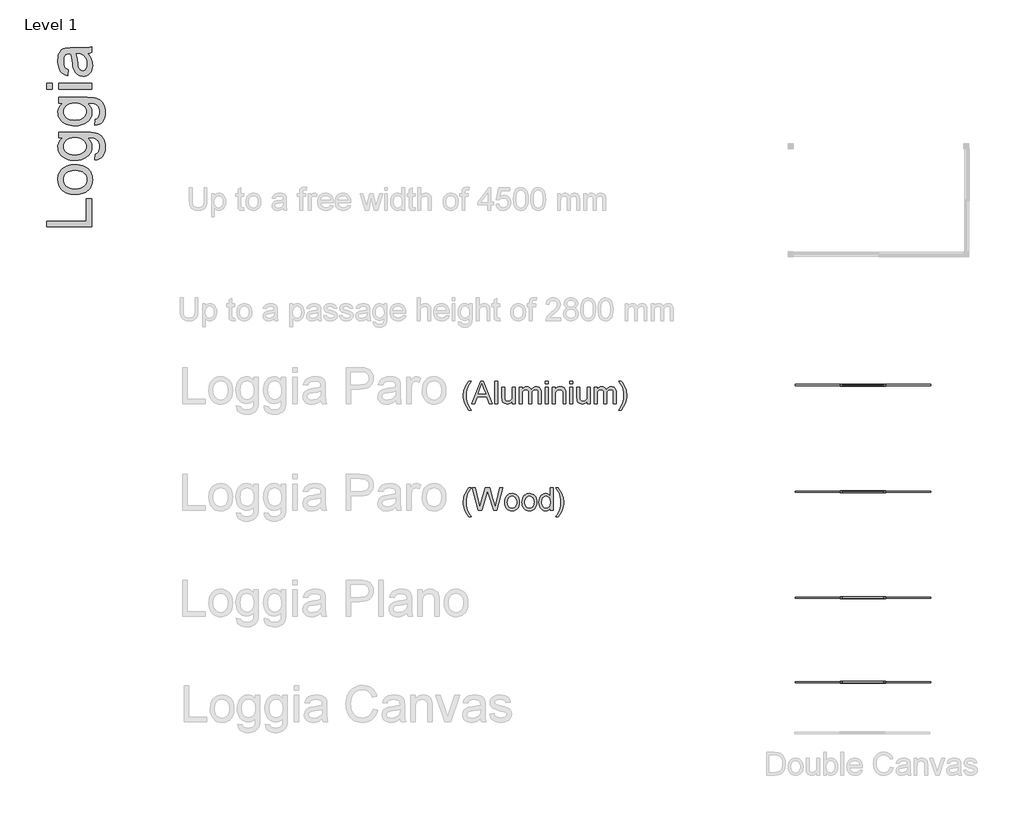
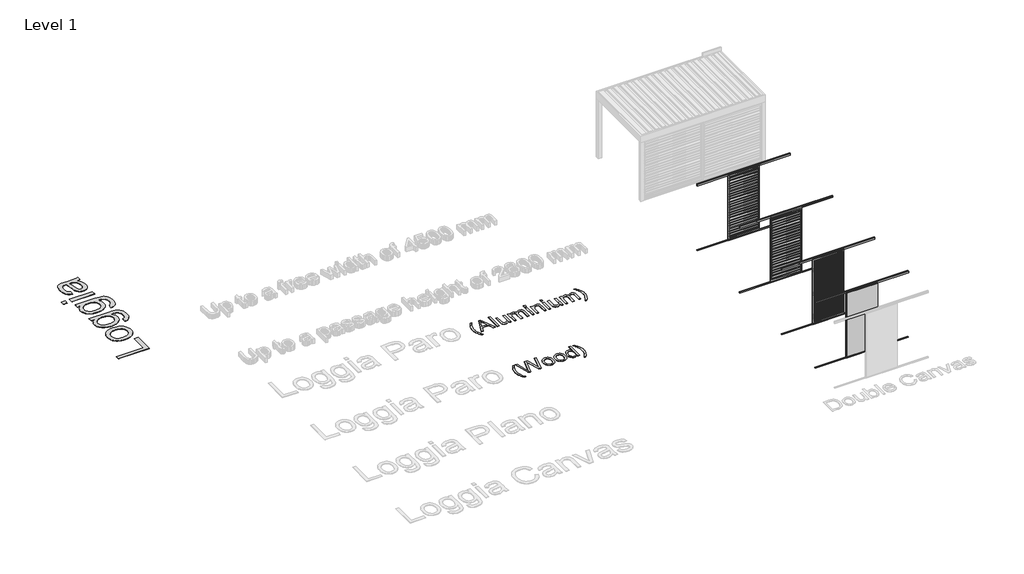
# One storey, part 15 of 47: 7 proxies.
"""IFC4 building model written with IfcOpenShell, lengths in millimetres."""

from ifc_helpers import new_model, si_unit, origin, origin_with_axes, place, context, project, spatial, polyline, outline, extrude, transform, mapped, element, save
from components import generic_models_8ee95c79, generic_models_744005c1, generic_models_683ab45b

model = new_model("IFC4")

# Units and contexts
model_context = context("Model", 3, world=origin())
ifc_project = project(units=[si_unit("LENGTHUNIT", "METRE", prefix="MILLI")], contexts=[model_context])

# Site, building, storey
site = spatial("IfcSite", under=ifc_project)
building = spatial("IfcBuilding", under=site)
storey = spatial("IfcBuildingStorey", under=building, Name="Level 1", Elevation=0.0)

# Proxies
placement = place(None, origin())
generic_models_shape = generic_models_8ee95c79(model_context)
element("IfcBuildingElementProxy", 1, Name="Renson_Algarve_Loggia_Paro_Aluminium : Renson_Algarve_Loggia_Paro_Aluminium", ObjectType="Renson_Algarve_Loggia_Paro_Aluminium : Renson_Algarve_Loggia_Paro_Aluminium", at=placement, inside=storey, context=model_context, shape_type="MappedRepresentation", body=[
    mapped(generic_models_shape, transform((188018.5499001, -17339.3330148, 0.0), x_axis=(1.0, 0.0, 0.0), y_axis=(0.0, 1.0, 0.0), z_axis=(0.0, 0.0, 1.0))),
])
element("IfcBuildingElementProxy", 2, Name="Renson_Algarve_Loggia_Paro_Wood : Renson_Algarve_Loggia_Paro_Wood", ObjectType="Renson_Algarve_Loggia_Paro_Wood : Renson_Algarve_Loggia_Paro_Wood", at=placement, inside=storey, context=model_context, shape_type="MappedRepresentation", body=[
    mapped(generic_models_shape, transform((188018.5499001, -19707.8379869, 0.0), x_axis=(1.0, 0.0, 0.0), y_axis=(0.0, 1.0, 0.0), z_axis=(0.0, 0.0, 1.0))),
])
generic_models_2_shape = generic_models_744005c1(model_context)
element("IfcBuildingElementProxy", 3, Name="Renson_Algarve_Loggia_Plano : Renson_Algarve_Loggia_Plano", ObjectType="Renson_Algarve_Loggia_Plano : Renson_Algarve_Loggia_Plano", at=placement, inside=storey, context=model_context, shape_type="MappedRepresentation", body=[
    mapped(generic_models_2_shape, transform((188018.5499001, -22053.1474804, 0.0), x_axis=(1.0, 0.0, 0.0), y_axis=(0.0, 1.0, 0.0), z_axis=(0.0, 0.0, 1.0))),
])
generic_models_3_shape = generic_models_683ab45b(model_context)
element("IfcBuildingElementProxy", 4, Name="Renson_Algarve_Loggia_Canvas : Renson_Algarve_Loggia_Canvas", ObjectType="Renson_Algarve_Loggia_Canvas : Renson_Algarve_Loggia_Canvas", at=placement, inside=storey, context=model_context, shape_type="MappedRepresentation", body=[
    mapped(generic_models_3_shape, transform((188018.5499001, -23933.1474804, 0.0), x_axis=(1.0, 0.0, 0.0), y_axis=(0.0, 1.0, 0.0), z_axis=(0.0, 0.0, 1.0))),
])
element("IfcBuildingElementProxy", 5, Name="1000mm Arial", ObjectType="1000mm Arial", at=placement, inside=storey, context=model_context, shape_type="SweptSolid", body=[
    extrude(outline(polyline([(170912.6292126, -13832.1373472), (169908.0661111, -13832.1373472), (169908.0661111, -13706.5669595), (170787.058825, -13706.5669595), (170787.058825, -13204.2854087), (170912.6292126, -13204.2854087), (170912.6292126, -13832.1373472)])), origin_with_axes(), (0.0, 0.0, 1.0), 5.0),
    extrude(outline(polyline([(170543.7661988, -13110.107618), (170494.343552, -13108.4099958), (170448.224179, -13103.3171295), (170405.4080797, -13094.8290189), (170365.8952541, -13082.945664), (170329.6857023, -13067.6670649), (170296.7794243, -13048.9932215), (170267.17642, -13026.9241339), (170240.8766895, -13001.4598021), (170205.1461507, -12953.6044858), (170179.6243373, -12900.7827627), (170164.3112492, -12842.9946326), (170159.2068865, -12780.2400956), (170160.7608047, -12744.772056), (170165.4225594, -12710.9633174), (170173.1921505, -12678.8138799), (170184.069578, -12648.3237435), (170198.054842, -12619.4929082), (170215.1479424, -12592.321374), (170235.3488793, -12566.8091408), (170258.6576526, -12542.9562087), (170284.7063803, -12521.3718823), (170313.1271805, -12502.6654661), (170343.9200531, -12486.83696), (170377.0849982, -12473.8863641), (170412.6220157, -12463.8136785), (170450.5311057, -12456.618903), (170533.4655029, -12450.8630826), (170600.6806092, -12453.4075997), (170660.3234776, -12461.0411511), (170712.3941084, -12473.7637368), (170756.8925014, -12491.5753567), (170795.3285056, -12514.2537489), (170829.2119702, -12541.5766513), (170858.5428951, -12573.5440638), (170883.3212804, -12610.1559865), (170903.0106313, -12649.9868767), (170917.0744534, -12691.6111916), (170925.5127467, -12735.0289313), (170928.3255111, -12780.2400956), (170926.777341, -12816.2676225), (170922.1328309, -12850.5285493), (170914.3919805, -12883.0228762), (170903.5547901, -12913.750603), (170889.6212595, -12942.7117299), (170872.5913888, -12969.9062568), (170852.465178, -12995.3341836), (170829.2426271, -13018.9955105), (170803.107677, -13040.3499107), (170774.2442688, -13058.8570575), (170742.6524025, -13074.516951), (170708.332078, -13087.3295911), (170671.2832954, -13097.2949778), (170631.5060547, -13104.4131112), (170543.7661988, -13110.107618)]), holes=[polyline([(170543.5209442, -12984.5372303), (170604.428407, -12980.9043956), (170657.1658238, -12970.0058915), (170701.7331947, -12951.841718), (170738.1305196, -12926.411875), (170766.4037838, -12895.4791306), (170786.5989725, -12860.8062526), (170798.7160857, -12822.3932409), (170802.7551234, -12780.2400956), (170798.6930931, -12738.3015482), (170786.507002, -12700.0418207), (170766.1968501, -12665.4609131), (170737.7626376, -12634.5588255), (170701.0050949, -12609.1289826), (170655.7249527, -12590.9648091), (170601.9222109, -12580.066305), (170539.5968695, -12576.4334703), (170480.6207872, -12580.0892976), (170429.2629278, -12591.0567796), (170385.5232914, -12609.3359162), (170349.401878, -12634.9267075), (170321.1286139, -12665.9437582), (170300.9334252, -12700.5016732), (170288.8163119, -12738.6004523), (170284.7772742, -12780.2400956), (170288.8009835, -12822.3932409), (170300.8721115, -12860.8062526), (170320.9906581, -12895.4791306), (170349.1566234, -12926.411875), (170385.4466493, -12951.841718), (170429.9373781, -12970.0058915), (170482.6288097, -12980.9043956), (170543.5209442, -12984.5372303)])]), origin_with_axes(), (0.0, 0.0, 1.0), 5.0),
    extrude(outline(polyline([(170975.4144065, -12340.9889934), (170991.1107049, -12215.4186057), (171012.2639197, -12210.1149736), (171030.3514511, -12201.5617172), (171045.3732992, -12189.7588365), (171057.3294641, -12174.7063316), (171069.5615404, -12150.3494778), (171078.2987378, -12121.9152653), (171083.5410562, -12089.4036939), (171085.2884957, -12052.8147638), (171083.31113, -12013.6046745), (171077.3790328, -11979.1157375), (171067.4922042, -11949.3479527), (171053.6506441, -11924.3013202), (171036.237563, -11903.4546738), (171015.6361713, -11886.2868473), (170991.8464689, -11872.7978409), (170964.868456, -11862.9876543), (170910.8511163, -11856.1818374), (170818.4514219, -11854.4037411), (170859.6542053, -11896.1890044), (170889.084765, -11942.8180473), (170899.3854608, -11967.9489861), (170906.7431007, -11994.2908698), (170912.6292126, -12050.6074719), (170910.9162621, -12086.0601831), (170905.7774105, -12119.4550544), (170897.2126578, -12150.7920858), (170885.222004, -12180.0712773), (170869.8054491, -12207.2926289), (170850.9629932, -12232.4561406), (170828.6946362, -12255.5618124), (170803.0003781, -12276.6096442), (170745.4575027, -12311.6427401), (170682.457711, -12336.6663799), (170614.0010031, -12351.6805639), (170540.0873789, -12356.6852918), (170488.3769659, -12354.4396788), (170438.7052324, -12347.7028398), (170391.0721782, -12336.4747747), (170345.4778034, -12320.7554836), (170303.4396213, -12300.782557), (170266.4751449, -12276.7935852), (170234.5843745, -12248.7885683), (170207.7673099, -12216.7675063), (170186.5221247, -12181.2439012), (170171.3469924, -12142.7312548), (170162.241913, -12101.2295672), (170159.2068865, -12056.7388384), (170160.9236692, -12026.6989743), (170166.0740171, -11998.015675), (170174.6579303, -11970.6889405), (170186.6754088, -11944.7187709), (170202.1264526, -11920.1051662), (170221.0110617, -11896.8481263), (170243.3292361, -11874.9476513), (170269.0809757, -11854.4037411), (170174.903185, -11854.4037411), (170174.903185, -11728.8333534), (170811.829546, -11728.8333534), (170891.6369463, -11730.9793317), (170958.8903735, -11737.4172666), (171013.5898277, -11748.1471582), (171055.7353088, -11763.1690063), (171089.7260723, -11782.8430288), (171119.9613738, -11807.5294435), (171146.4412132, -11837.2282504), (171169.1655906, -11871.9394495), (171187.4064062, -11911.3104872), (171200.4355602, -11954.9888099), (171208.2530526, -12002.9744177), (171210.8588834, -12055.2673105), (171207.1877277, -12116.7879099), (171196.1742604, -12172.1005008), (171177.8184817, -12221.2050829), (171152.1203915, -12264.1016564), (171119.049333, -12298.7515418), (171078.5746493, -12323.1160598), (171030.6963405, -12337.1952103), (170975.4144065, -12340.9889934)]), holes=[polyline([(170531.5034656, -12231.1149042), (170593.5912165, -12227.7656452), (170646.681187, -12217.7178682), (170690.7733769, -12200.9715732), (170725.8677864, -12177.5267602), (170752.6388658, -12149.0235698), (170771.7610653, -12117.1021425), (170783.234385, -12081.7624783), (170787.058825, -12043.0045773), (170783.2573777, -12004.6298867), (170771.8530358, -11969.4588351), (170752.8457994, -11937.4914225), (170726.2356684, -11908.727649), (170691.4861483, -11884.9609393), (170648.0607444, -11867.9847181), (170595.9594569, -11857.7989853), (170535.1822856, -11854.4037411), (170476.9419672, -11857.89862), (170426.3198719, -11868.3832569), (170383.3159995, -11885.8576517), (170347.93035, -11910.3218044), (170320.3008794, -11939.7063787), (170300.5655432, -11971.9420386), (170288.7243414, -12007.0287838), (170284.7772742, -12044.9666146), (170288.6630278, -12082.2683161), (170300.3202885, -12116.6729468), (170319.7490564, -12148.1805069), (170346.9493314, -12176.7909962), (170381.7984862, -12200.5577059), (170424.1738935, -12217.5339272), (170474.0755534, -12227.7196599), (170531.5034656, -12231.1149042)])]), origin_with_axes(), (0.0, 0.0, 1.0), 5.0),
    extrude(outline(polyline([(170975.4144065, -11571.8703688), (170991.1107049, -11446.2999811), (171012.2639197, -11440.996349), (171030.3514511, -11432.4430926), (171045.3732992, -11420.6402119), (171057.3294641, -11405.587707), (171069.5615404, -11381.2308532), (171078.2987378, -11352.7966407), (171083.5410562, -11320.2850693), (171085.2884957, -11283.6961392), (171083.31113, -11244.4860499), (171077.3790328, -11209.9971129), (171067.4922042, -11180.2293281), (171053.6506441, -11155.1826956), (171036.237563, -11134.3360492), (171015.6361713, -11117.1682228), (170991.8464689, -11103.6792163), (170964.868456, -11093.8690297), (170910.8511163, -11087.0632128), (170818.4514219, -11085.2851165), (170859.6542053, -11127.0703798), (170889.084765, -11173.6994227), (170899.3854608, -11198.8303615), (170906.7431007, -11225.1722452), (170912.6292126, -11281.4888473), (170910.9162621, -11316.9415585), (170905.7774105, -11350.3364298), (170897.2126578, -11381.6734612), (170885.222004, -11410.9526527), (170869.8054491, -11438.1740043), (170850.9629932, -11463.337516), (170828.6946362, -11486.4431878), (170803.0003781, -11507.4910196), (170745.4575027, -11542.5241155), (170682.457711, -11567.5477554), (170614.0010031, -11582.5619393), (170540.0873789, -11587.5666673), (170488.3769659, -11585.3210542), (170438.7052324, -11578.5842152), (170391.0721782, -11567.3561501), (170345.4778034, -11551.6368591), (170303.4396213, -11531.6639324), (170266.4751449, -11507.6749606), (170234.5843745, -11479.6699438), (170207.7673099, -11447.6488818), (170186.5221247, -11412.1252766), (170171.3469924, -11373.6126302), (170162.241913, -11332.1109426), (170159.2068865, -11287.6202139), (170160.9236692, -11257.5803497), (170166.0740171, -11228.8970504), (170174.6579303, -11201.5703159), (170186.6754088, -11175.6001463), (170202.1264526, -11150.9865416), (170221.0110617, -11127.7295017), (170243.3292361, -11105.8290267), (170269.0809757, -11085.2851165), (170174.903185, -11085.2851165), (170174.903185, -10959.7147288), (170811.829546, -10959.7147288), (170891.6369463, -10961.8607071), (170958.8903735, -10968.298642), (171013.5898277, -10979.0285336), (171055.7353088, -10994.0503817), (171089.7260723, -11013.7244042), (171119.9613738, -11038.410819), (171146.4412132, -11068.1096259), (171169.1655906, -11102.8208249), (171187.4064062, -11142.1918626), (171200.4355602, -11185.8701854), (171208.2530526, -11233.8557931), (171210.8588834, -11286.1486859), (171207.1877277, -11347.6692854), (171196.1742604, -11402.9818762), (171177.8184817, -11452.0864583), (171152.1203915, -11494.9830318), (171119.049333, -11529.6329172), (171078.5746493, -11553.9974352), (171030.6963405, -11568.0765857), (170975.4144065, -11571.8703688)]), holes=[polyline([(170531.5034656, -11461.9962796), (170593.5912165, -11458.6470206), (170646.681187, -11448.5992436), (170690.7733769, -11431.8529486), (170725.8677864, -11408.4081356), (170752.6388658, -11379.9049452), (170771.7610653, -11347.9835179), (170783.234385, -11312.6438537), (170787.058825, -11273.8859527), (170783.2573777, -11235.5112621), (170771.8530358, -11200.3402105), (170752.8457994, -11168.372798), (170726.2356684, -11139.6090245), (170691.4861483, -11115.8423147), (170648.0607444, -11098.8660935), (170595.9594569, -11088.6803608), (170535.1822856, -11085.2851165), (170476.9419672, -11088.7799955), (170426.3198719, -11099.2646323), (170383.3159995, -11116.7390271), (170347.93035, -11141.2031798), (170320.3008794, -11170.5877541), (170300.5655432, -11202.823414), (170288.7243414, -11237.9101593), (170284.7772742, -11275.84799), (170288.6630278, -11313.1496915), (170300.3202885, -11347.5543222), (170319.7490564, -11379.0618823), (170346.9493314, -11407.6723716), (170381.7984862, -11431.4390813), (170424.1738935, -11448.4153026), (170474.0755534, -11458.6010353), (170531.5034656, -11461.9962796)])]), origin_with_axes(), (0.0, 0.0, 1.0), 5.0),
    extrude(outline(polyline([(170912.6292126, -10771.3591473), (170174.903185, -10771.3591473), (170174.903185, -10645.7887596), (170912.6292126, -10645.7887596), (170912.6292126, -10771.3591473)])), origin_with_axes(), (0.0, 0.0, 1.0), 5.0),
    extrude(outline(polyline([(170033.6364988, -10771.3591473), (169908.0661111, -10771.3591473), (169908.0661111, -10645.7887596), (170033.6364988, -10645.7887596), (170033.6364988, -10771.3591473)])), origin_with_axes(), (0.0, 0.0, 1.0), 5.0),
    extrude(outline(polyline([(170818.4514219, -9986.5442242), (170846.3951251, -10016.3196732), (170869.8935875, -10046.5396463), (170888.9468092, -10077.2041434), (170903.5547901, -10108.3131647), (170914.3919805, -10140.2192635), (170922.1328309, -10173.2749936), (170926.777341, -10207.480355), (170928.3255111, -10242.8353476), (170924.6007059, -10298.7457466), (170913.4262903, -10347.7736867), (170894.8022643, -10389.9191678), (170868.7286279, -10425.1821898), (170836.8608501, -10453.0262583), (170800.8543998, -10472.9148787), (170760.7092771, -10484.8480509), (170716.4254819, -10488.825775), (170664.3701796, -10482.8170357), (170640.1359531, -10475.3061117), (170617.0973432, -10464.790818), (170576.6303237, -10436.9850705), (170544.9924721, -10401.6377421), (170521.0801424, -10360.0977335), (170503.7896887, -10313.7139453), (170494.1634431, -10268.5257736), (170484.9050796, -10205.0661294), (170465.0394518, -10076.6753131), (170453.819051, -10027.1032142), (170441.7402588, -9987.2799882), (170413.7812272, -9986.5442242), (170383.3389921, -9988.705531), (170357.7405366, -9995.1894511), (170336.9858607, -10005.9959847), (170321.0749644, -10021.1251318), (170305.1947249, -10047.2754103), (170293.8516968, -10079.1278597), (170287.0458798, -10116.68248), (170284.7772742, -10159.9392713), (170286.2871232, -10200.1610361), (170290.8166703, -10234.7419437), (170298.3659154, -10263.6819939), (170308.9348586, -10286.981187), (170323.3512342, -10306.1263791), (170342.442777, -10322.6044268), (170366.2094867, -10336.4153301), (170394.6513634, -10347.5590888), (170378.955065, -10473.1294765), (170342.7800021, -10463.5722089), (170310.2837592, -10451.3324683), (170281.4663363, -10436.4102549), (170256.3277332, -10418.8055686), (170234.3621125, -10397.7596528), (170215.0636361, -10372.5137509), (170198.4323043, -10343.0678628), (170184.4681169, -10309.4219887), (170173.4163286, -10272.258243), (170165.5221941, -10232.2587402), (170160.7857134, -10189.4234804), (170159.2068865, -10143.7524635), (170164.7864301, -10058.8636931), (170171.7608596, -10023.0181912), (170181.5250609, -9991.5719448), (170206.6943207, -9940.8348863), (170221.4172647, -9921.2834911), (170237.5657515, -9905.6101853), (170275.7335085, -9882.2496786), (170322.791747, -9867.1052031), (170366.2018225, -9862.5066782), (170432.6658363, -9860.9738366), (170588.8930569, -9860.9738366), (170724.9787383, -9859.3796812), (170807.04708, -9854.5972153), (170860.9724492, -9845.1549108), (170912.6292126, -9829.5812396), (170912.6292126, -9955.1516273), (170868.9738826, -9975.2625097), (170818.4514219, -9986.5442242)]), holes=[polyline([(170567.3106465, -9986.5442242), (170588.2186066, -10070.9118285), (170605.8156287, -10189.1245763), (170615.4418742, -10254.2703462), (170626.1717657, -10297.1592555), (170640.0899679, -10325.2715713), (170659.2811453, -10346.0875609), (170682.27377, -10358.9634307), (170707.596314, -10363.2553873), (170727.1093882, -10360.9178038), (170744.9363365, -10353.9050533), (170761.077159, -10342.2171357), (170775.5318558, -10325.8540511), (170787.4420354, -10304.9690837), (170795.9493065, -10279.7155176), (170801.0536692, -10250.0933528), (170802.7551234, -10216.1025892), (170800.8773924, -10181.3990544), (170795.2441994, -10148.6575568), (170785.8555443, -10117.8780965), (170772.7114271, -10089.0606736), (170756.9001656, -10063.0636792), (170739.5100771, -10040.7455049), (170720.5411617, -10022.1061504), (170699.9934194, -10007.145616), (170681.5993197, -9998.4544038), (170659.2811453, -9992.2463952), (170602.8725727, -9987.2799882), (170567.3106465, -9986.5442242)])]), origin_with_axes(), (0.0, 0.0, 1.0), 5.0),
])
element("IfcBuildingElementProxy", 6, Name="500mm Arial", ObjectType="500mm Arial", at=placement, inside=storey, context=model_context, shape_type="SweptSolid", body=[
    extrude(outline(polyline([(179277.794857, -17892.7132925), (179252.4493204, -17859.9181454), (179229.1424632, -17824.4405255), (179188.6447869, -17745.4378671), (179172.710898, -17702.8708545), (179161.3295487, -17659.5374212), (179154.5007392, -17615.437567), (179152.2244693, -17570.571292), (179153.9259236, -17531.1389407), (179159.0302863, -17492.5496522), (179167.5375574, -17454.8034267), (179179.447737, -17417.900264), (179197.5505968, -17375.5785062), (179219.9760701, -17333.3487188), (179246.7241569, -17291.2109019), (179277.794857, -17249.1650556), (179324.8837524, -17249.1650556), (179266.1452605, -17348.6158216), (179246.0956918, -17395.8273443), (179230.828589, -17445.0009043), (179218.9643946, -17507.816755), (179215.0096632, -17570.939174), (179216.7264458, -17611.1877635), (179221.8767938, -17651.4286889), (179230.460707, -17691.66195), (179242.4781855, -17731.8875469), (179276.8138384, -17812.3157481), (179324.8837524, -17892.7132925), (179277.794857, -17892.7132925)])), origin_with_axes(), (0.0, 0.0, 1.0), 5.0),
    extrude(outline(polyline([(179337.0238583, -17751.4466063), (179537.5195456, -17249.1650556), (179590.9850623, -17249.1650556), (179791.4807496, -17751.4466063), (179725.1393632, -17751.4466063), (179667.6271446, -17594.4836217), (179460.754836, -17594.4836217), (179403.3652447, -17751.4466063), (179337.0238583, -17751.4466063)]), holes=[polyline([(179483.8087743, -17531.6984279), (179644.6958336, -17531.6984279), (179599.4463482, -17408.2127048), (179564.2523039, -17311.9502494), (179532.9823344, -17397.4214996), (179483.8087743, -17531.6984279)])]), origin_with_axes(), (0.0, 0.0, 1.0), 5.0),
    extrude(outline(polyline([(179850.7097509, -17751.4466063), (179850.7097509, -17249.1650556), (179913.4949447, -17249.1650556), (179913.4949447, -17751.4466063), (179850.7097509, -17751.4466063)])), origin_with_axes(), (0.0, 0.0, 1.0), 5.0),
    extrude(outline(polyline([(180243.1172124, -17751.4466063), (180243.1172124, -17688.0482758), (180220.4004992, -17719.2186107), (180193.9436524, -17741.4831356), (180163.7466719, -17754.8418506), (180129.8095579, -17759.2947555), (180099.229367, -17756.1677586), (180070.7644976, -17746.7867677), (180046.8828248, -17732.6846246), (180030.0522235, -17715.3941708), (180018.7245237, -17694.3942402), (180011.3515554, -17669.1636667), (180007.6727355, -17610.7930568), (180007.6727355, -17382.5835925), (180070.4579293, -17382.5835925), (180070.4579293, -17581.2398699), (180074.2593766, -17645.251337), (180083.4104412, -17666.6038212), (180099.0914113, -17682.8366142), (180120.2599544, -17693.0913248), (180145.8737383, -17696.5095617), (180172.9590502, -17693.0146827), (180198.2969226, -17682.5300459), (180219.1895543, -17666.0213413), (180232.9391438, -17644.4542594), (180240.5726952, -17614.9164009), (180243.1172124, -17574.4953666), (180243.1172124, -17382.5835925), (180305.9024062, -17382.5835925), (180305.9024062, -17751.4466063), (180243.1172124, -17751.4466063)])), origin_with_axes(), (0.0, 0.0, 1.0), 5.0),
    extrude(outline(polyline([(180392.2320478, -17751.4466063), (180392.2320478, -17382.5835925), (180455.0172416, -17382.5835925), (180455.0172416, -17443.2841217), (180473.9018507, -17415.4017321), (180498.1820624, -17393.5587387), (180527.0301422, -17379.4412671), (180559.6183556, -17374.7354433), (180594.5364883, -17379.5332376), (180622.5261767, -17393.9266207), (180643.4341368, -17416.9652306), (180657.1070843, -17447.6987056), (180679.9924101, -17415.7772783), (180706.0967033, -17392.9762588), (180735.419964, -17379.2956472), (180767.9621922, -17374.7354433), (180793.0969631, -17376.6323348), (180815.1583865, -17382.3230094), (180834.1464624, -17391.8074671), (180850.0611908, -17405.0857079), (180862.6419886, -17422.3110159), (180871.6282727, -17443.6366753), (180877.0200432, -17469.0626861), (180878.8173, -17498.5890483), (180878.8173, -17751.4466063), (180816.0321062, -17751.4466063), (180816.0321062, -17525.5670613), (180814.5759066, -17494.2511064), (180810.2073079, -17473.143877), (180802.0219336, -17458.6891802), (180789.1154069, -17447.3308236), (180772.5147319, -17439.9731837), (180753.2469124, -17437.5206371), (180735.4544529, -17439.0917998), (180719.2331562, -17443.8052878), (180704.5830222, -17451.6611013), (180691.5040508, -17462.6592401), (180680.7473346, -17477.121601), (180673.0639658, -17495.3700808), (180668.4539446, -17517.4046795), (180666.9172708, -17543.225397), (180666.9172708, -17751.4466063), (180604.132077, -17751.4466063), (180604.132077, -17518.5773034), (180600.4992423, -17483.0766908), (180589.6007382, -17457.7541468), (180581.1739412, -17448.9019863), (180570.4248892, -17442.5790145), (180541.9600198, -17437.5206371), (180517.7717786, -17440.8928887), (180495.4842611, -17451.0096436), (180477.0901613, -17467.625647), (180464.5821735, -17490.4956444), (180457.4084746, -17522.2254665), (180455.0172416, -17565.4209441), (180455.0172416, -17751.4466063), (180392.2320478, -17751.4466063)])), origin_with_axes(), (0.0, 0.0, 1.0), 5.0),
    extrude(outline(polyline([(180972.9950908, -17751.4466063), (180972.9950908, -17382.5835925), (181035.7802847, -17382.5835925), (181035.7802847, -17751.4466063), (180972.9950908, -17751.4466063)])), origin_with_axes(), (0.0, 0.0, 1.0), 5.0),
    extrude(outline(polyline([(180972.9950908, -17311.9502494), (180972.9950908, -17249.1650556), (181035.7802847, -17249.1650556), (181035.7802847, -17311.9502494), (180972.9950908, -17311.9502494)])), origin_with_axes(), (0.0, 0.0, 1.0), 5.0),
    extrude(outline(polyline([(181129.9580754, -17751.4466063), (181129.9580754, -17382.5835925), (181192.7432693, -17382.5835925), (181192.7432693, -17434.0870718), (181214.5556059, -17408.1207343), (181240.7518696, -17389.5733504), (181271.3320605, -17378.44492), (181306.2961784, -17374.7354433), (181337.2442513, -17377.7244845), (181365.5864933, -17386.6916081), (181389.2229115, -17400.5178397), (181406.0535128, -17418.084205), (181417.4731831, -17439.3447187), (181424.8768082, -17464.2533954), (181428.1877462, -17524.9539246), (181428.1877462, -17751.4466063), (181365.4025523, -17751.4466063), (181365.4025523, -17533.4152105), (181363.5937992, -17500.9496244), (181358.1675398, -17477.8650292), (181348.1580838, -17461.3256679), (181332.5997411, -17448.4957833), (181312.6574713, -17440.2644236), (181289.496234, -17437.5206371), (181270.431516, -17439.061143), (181252.7233629, -17443.6826605), (181236.3717746, -17451.3851898), (181221.3767512, -17462.1687308), (181208.8496029, -17477.2595568), (181199.9016398, -17497.8839411), (181194.5328619, -17524.0418838), (181192.7432693, -17555.7333849), (181192.7432693, -17751.4466063), (181129.9580754, -17751.4466063)])), origin_with_axes(), (0.0, 0.0, 1.0), 5.0),
    extrude(outline(polyline([(181514.5173877, -17311.9502494), (181514.5173877, -17249.1650556), (181577.3025816, -17249.1650556), (181577.3025816, -17311.9502494), (181514.5173877, -17311.9502494)])), origin_with_axes(), (0.0, 0.0, 1.0), 5.0),
    extrude(outline(polyline([(181514.5173877, -17751.4466063), (181514.5173877, -17382.5835925), (181577.3025816, -17382.5835925), (181577.3025816, -17751.4466063), (181514.5173877, -17751.4466063)])), origin_with_axes(), (0.0, 0.0, 1.0), 5.0),
    extrude(outline(polyline([(181906.9248492, -17751.4466063), (181906.9248492, -17688.0482758), (181884.208136, -17719.2186107), (181857.7512892, -17741.4831356), (181827.5543088, -17754.8418506), (181793.6171947, -17759.2947555), (181763.0370039, -17756.1677586), (181734.5721345, -17746.7867677), (181710.6904616, -17732.6846246), (181693.8598604, -17715.3941708), (181682.5321606, -17694.3942402), (181675.1591923, -17669.1636667), (181671.4803723, -17610.7930568), (181671.4803723, -17382.5835925), (181734.2655662, -17382.5835925), (181734.2655662, -17581.2398699), (181738.0670134, -17645.251337), (181747.2180781, -17666.6038212), (181762.8990481, -17682.8366142), (181784.0675913, -17693.0913248), (181809.6813752, -17696.5095617), (181836.7666871, -17693.0146827), (181862.1045595, -17682.5300459), (181882.9971911, -17666.0213413), (181896.7467807, -17644.4542594), (181904.3803321, -17614.9164009), (181906.9248492, -17574.4953666), (181906.9248492, -17382.5835925), (181969.7100431, -17382.5835925), (181969.7100431, -17751.4466063), (181906.9248492, -17751.4466063)])), origin_with_axes(), (0.0, 0.0, 1.0), 5.0),
    extrude(outline(polyline([(182056.0396846, -17751.4466063), (182056.0396846, -17382.5835925), (182118.8248785, -17382.5835925), (182118.8248785, -17443.2841217), (182137.7094875, -17415.4017321), (182161.9896992, -17393.5587387), (182190.837779, -17379.4412671), (182223.4259924, -17374.7354433), (182258.3441251, -17379.5332376), (182286.3338136, -17393.9266207), (182307.2417737, -17416.9652306), (182320.9147211, -17447.6987056), (182343.8000469, -17415.7772783), (182369.9043402, -17392.9762588), (182399.2276009, -17379.2956472), (182431.769829, -17374.7354433), (182456.9045999, -17376.6323348), (182478.9660233, -17382.3230094), (182497.9540992, -17391.8074671), (182513.8688276, -17405.0857079), (182526.4496254, -17422.3110159), (182535.4359096, -17443.6366753), (182540.8276801, -17469.0626861), (182542.6249369, -17498.5890483), (182542.6249369, -17751.4466063), (182479.8397431, -17751.4466063), (182479.8397431, -17525.5670613), (182478.3835435, -17494.2511064), (182474.0149448, -17473.143877), (182465.8295704, -17458.6891802), (182452.9230437, -17447.3308236), (182436.3223687, -17439.9731837), (182417.0545492, -17437.5206371), (182399.2620898, -17439.0917998), (182383.0407931, -17443.8052878), (182368.390659, -17451.6611013), (182355.3116877, -17462.6592401), (182344.5549714, -17477.121601), (182336.8716027, -17495.3700808), (182332.2615814, -17517.4046795), (182330.7249077, -17543.225397), (182330.7249077, -17751.4466063), (182267.9397138, -17751.4466063), (182267.9397138, -17518.5773034), (182264.3068791, -17483.0766908), (182253.408375, -17457.7541468), (182244.9815781, -17448.9019863), (182234.232526, -17442.5790145), (182205.7676566, -17437.5206371), (182181.5794155, -17440.8928887), (182159.2918979, -17451.0096436), (182140.8977982, -17467.625647), (182128.3898103, -17490.4956444), (182121.2161114, -17522.2254665), (182118.8248785, -17565.4209441), (182118.8248785, -17751.4466063), (182056.0396846, -17751.4466063)])), origin_with_axes(), (0.0, 0.0, 1.0), 5.0),
    extrude(outline(polyline([(182652.4990261, -17892.7132925), (182605.4101307, -17892.7132925), (182653.4800448, -17812.3157481), (182687.8156977, -17731.8875469), (182699.8331762, -17691.66195), (182708.4170894, -17651.4286889), (182713.5674373, -17611.1877635), (182715.28422, -17570.939174), (182711.3294885, -17508.2766075), (182699.4652942, -17446.1045503), (182684.4741029, -17396.8390198), (182664.5165046, -17349.5968402), (182605.4101307, -17249.1650556), (182652.4990261, -17249.1650556), (182683.5697263, -17291.2109019), (182710.317813, -17333.3487188), (182732.7432863, -17375.5785062), (182750.8461462, -17417.900264), (182762.7563258, -17454.8034267), (182771.2635969, -17492.5496522), (182776.3679596, -17531.1389407), (182778.0694138, -17570.571292), (182775.7816477, -17615.437567), (182768.9183492, -17659.5374212), (182757.4795184, -17702.8708545), (182741.4651553, -17745.4378671), (182700.9214937, -17824.4405255), (182652.4990261, -17892.7132925)])), origin_with_axes(), (0.0, 0.0, 1.0), 5.0),
])
element("IfcBuildingElementProxy", 7, Name="500mm Arial", ObjectType="500mm Arial", at=placement, inside=storey, context=model_context, shape_type="SweptSolid", body=[
    extrude(outline(polyline([(179276.2801385, -20261.2182645), (179250.9346019, -20228.4231175), (179227.6277447, -20192.9454976), (179187.1300684, -20113.9428391), (179171.1961795, -20071.3758266), (179159.8148302, -20028.0423932), (179152.9860207, -19983.9425391), (179150.7097509, -19939.0762641), (179152.4112051, -19899.6439127), (179157.5155678, -19861.0546243), (179166.0228389, -19823.3083987), (179177.9330185, -19786.4052361), (179196.0358783, -19744.0834782), (179218.4613516, -19701.8536908), (179245.2094384, -19659.715874), (179276.2801385, -19617.6700276), (179323.3690339, -19617.6700276), (179264.630542, -19717.1207936), (179244.5809733, -19764.3323164), (179229.3138705, -19813.5058764), (179217.4496761, -19876.3217271), (179213.4949447, -19939.4441461), (179215.2117273, -19979.6927356), (179220.3620753, -20019.9336609), (179228.9459885, -20060.166922), (179240.963467, -20100.392519), (179275.2991199, -20180.8207202), (179323.3690339, -20261.2182645), (179276.2801385, -20261.2182645)])), origin_with_axes(), (0.0, 0.0, 1.0), 5.0),
    extrude(outline(polyline([(179483.8882112, -20119.9515784), (179346.9134816, -19617.6700276), (179411.6607128, -19617.6700276), (179491.1232237, -19947.7828046), (179515.6486901, -20049.6861173), (179541.8909391, -19959.5550285), (179641.4643324, -19617.6700276), (179734.7837319, -19617.6700276), (179807.1338576, -19865.499865), (179838.1279157, -19957.4703638), (179860.9672562, -20049.6861173), (179884.7569586, -19950.7258606), (179964.9552335, -19617.6700276), (180029.7024647, -19617.6700276), (179892.6051078, -20119.9515784), (179825.5279573, -20119.9515784), (179705.1079176, -19732.4492101), (179688.3079731, -19678.3705568), (179669.4233641, -19743.48567), (179559.6719022, -20119.9515784), (179483.8882112, -20119.9515784)])), origin_with_axes(), (0.0, 0.0, 1.0), 5.0),
    extrude(outline(polyline([(180068.9432108, -19935.5200714), (180072.3384551, -19887.7490615), (180082.5241878, -19846.5845991), (180099.500409, -19812.0266842), (180123.2671188, -19784.0753168), (180147.1947769, -19766.2100474), (180173.6056384, -19753.4491407), (180202.4997035, -19745.7925966), (180233.876972, -19743.2404153), (180268.5153611, -19746.3482517), (180299.835148, -19755.6717611), (180327.8363328, -19771.2109432), (180352.5189154, -19792.9657983), (180372.6642868, -19820.2005623), (180387.0538377, -19852.1794711), (180395.6875683, -19888.9025249), (180398.5654785, -19930.3697235), (180393.4764442, -19993.7987109), (180387.1151514, -20019.8340262), (180378.2093414, -20042.0832227), (180366.8701454, -20061.3012249), (180353.2086942, -20078.2429572), (180337.2249879, -20092.9084196), (180318.9190265, -20105.2976122), (180278.191424, -20122.1741988), (180233.876972, -20127.7997276), (180198.7327451, -20124.7033875), (180167.1217183, -20115.4143671), (180139.0438914, -20099.9326665), (180114.4992646, -20078.2582856), (180094.568491, -20050.7591064), (180080.3322243, -20017.803011), (180071.7904642, -19979.3899994), (180068.9432108, -19935.5200714)]), holes=[polyline([(180131.7284047, -19935.3974441), (180133.544822, -19965.8511755), (180138.9940741, -19992.219884), (180148.0761608, -20014.5035694), (180160.7910823, -20032.7022318), (180176.2574545, -20046.8388639), (180193.5938935, -20056.9364583), (180212.8003993, -20062.9950149), (180233.876972, -20065.0145338), (180254.8462457, -20062.9835186), (180273.9761095, -20056.890473), (180291.2665632, -20046.7353971), (180306.717607, -20032.5182908), (180319.4325285, -20014.1395195), (180328.5146152, -19991.4994484), (180333.9638673, -19964.5980775), (180335.7802847, -19933.4354068), (180333.952371, -19903.9473656), (180328.46863, -19878.268436), (180319.3290617, -19856.3986178), (180306.533666, -19838.3379111), (180291.0251407, -19824.201279), (180273.7461832, -19814.1036846), (180254.6967937, -19808.045128), (180233.876972, -19806.0256091), (180212.8003993, -19808.0374638), (180193.5938935, -19814.0730278), (180176.2574545, -19824.1323011), (180160.7910823, -19838.2152837), (180148.0761608, -19856.3602967), (180138.9940741, -19878.6056611), (180133.544822, -19904.9513769), (180131.7284047, -19935.3974441)])]), origin_with_axes(), (0.0, 0.0, 1.0), 5.0),
    extrude(outline(polyline([(180453.5025231, -19935.5200714), (180456.8977674, -19887.7490615), (180467.0835001, -19846.5845991), (180484.0597213, -19812.0266842), (180507.8264311, -19784.0753168), (180531.7540892, -19766.2100474), (180558.1649507, -19753.4491407), (180587.0590158, -19745.7925966), (180618.4362843, -19743.2404153), (180653.0746734, -19746.3482517), (180684.3944603, -19755.6717611), (180712.3956451, -19771.2109432), (180737.0782277, -19792.9657983), (180757.2235991, -19820.2005623), (180771.61315, -19852.1794711), (180780.2468806, -19888.9025249), (180783.1247908, -19930.3697235), (180778.0357565, -19993.7987109), (180771.6744637, -20019.8340262), (180762.7686537, -20042.0832227), (180751.4294576, -20061.3012249), (180737.7680065, -20078.2429572), (180721.7843002, -20092.9084196), (180703.4783388, -20105.2976122), (180662.7507363, -20122.1741988), (180618.4362843, -20127.7997276), (180583.2920574, -20124.7033875), (180551.6810306, -20115.4143671), (180523.6032037, -20099.9326665), (180499.0585768, -20078.2582856), (180479.1278033, -20050.7591064), (180464.8915365, -20017.803011), (180456.3497765, -19979.3899994), (180453.5025231, -19935.5200714)]), holes=[polyline([(180516.287717, -19935.3974441), (180518.1041343, -19965.8511755), (180523.5533864, -19992.219884), (180532.6354731, -20014.5035694), (180545.3503946, -20032.7022318), (180560.8167668, -20046.8388639), (180578.1532058, -20056.9364583), (180597.3597116, -20062.9950149), (180618.4362843, -20065.0145338), (180639.405558, -20062.9835186), (180658.5354218, -20056.890473), (180675.8258755, -20046.7353971), (180691.2769193, -20032.5182908), (180703.9918408, -20014.1395195), (180713.0739275, -19991.4994484), (180718.5231796, -19964.5980775), (180720.3395969, -19933.4354068), (180718.5116833, -19903.9473656), (180713.0279423, -19878.268436), (180703.888374, -19856.3986178), (180691.0929783, -19838.3379111), (180675.584453, -19824.201279), (180658.3054955, -19814.1036846), (180639.2561059, -19808.045128), (180618.4362843, -19806.0256091), (180597.3597116, -19808.0374638), (180578.1532058, -19814.0730278), (180560.8167668, -19824.1323011), (180545.3503946, -19838.2152837), (180532.6354731, -19856.3602967), (180523.5533864, -19878.6056611), (180518.1041343, -19904.9513769), (180516.287717, -19935.3974441)])]), origin_with_axes(), (0.0, 0.0, 1.0), 5.0),
    extrude(outline(polyline([(181081.3544615, -20119.9515784), (181081.3544615, -20060.7225771), (181062.5694872, -20090.0688305), (181039.8144529, -20111.03044), (181013.0893588, -20123.6074057), (180982.3942048, -20127.7997276), (180941.804558, -20121.7296747), (180904.6484765, -20103.5195159), (180873.1945659, -20074.4415099), (180849.7114319, -20035.7679151), (180835.0881226, -19989.0622302), (180830.2136862, -19935.8879534), (180834.7049122, -19883.3727986), (180848.1785903, -19835.9466781), (180858.2800167, -19814.816456), (180870.619392, -19796.3073931), (180885.196716, -19780.4194894), (180902.0119889, -19767.152745), (180939.9804765, -19749.2184977), (180982.1489502, -19743.2404153), (181012.8670968, -19747.5170435), (181040.0290508, -19760.3469281), (181063.0523323, -19780.0132864), (181081.3544615, -19804.7993358), (181081.3544615, -19617.6700276), (181144.1396554, -19617.6700276), (181144.1396554, -20119.9515784), (181081.3544615, -20119.9515784)]), holes=[polyline([(180892.99888, -19935.6426988), (180894.7693121, -19966.088766), (180900.0806084, -19992.4344818), (180908.9327689, -20014.6798462), (180921.3257936, -20032.8248592), (180936.1253797, -20046.9078418), (180952.1972244, -20056.9671151), (180969.5413276, -20063.0026791), (180988.1576894, -20065.0145338), (181006.8621896, -20063.0946496), (181024.102826, -20057.3349971), (181039.8795987, -20047.7355763), (181054.1925076, -20034.2963872), (181066.0758624, -20016.9101308), (181074.5639731, -19995.4695082), (181079.6568394, -19969.9745196), (181081.3544615, -19940.4251647), (181079.6261826, -19908.0285565), (181074.4413457, -19880.2458017), (181065.7999509, -19857.0769002), (181053.7019982, -19838.5218521), (181039.0748568, -19824.3047458), (181022.8458959, -19814.1496699), (181005.0151154, -19808.0566243), (180985.5825155, -19806.0256091), (180966.5982717, -19807.9761501), (180949.2541684, -19813.8277731), (180933.5502058, -19823.5804781), (180919.4863837, -19837.2342651), (180907.8981008, -19855.0880382), (180899.6207559, -19877.4407015), (180894.654349, -19904.292255), (180892.99888, -19935.6426988)])]), origin_with_axes(), (0.0, 0.0, 1.0), 5.0),
    extrude(outline(polyline([(181254.0137446, -20261.2182645), (181206.9248492, -20261.2182645), (181254.9947633, -20180.8207202), (181289.3304162, -20100.392519), (181301.3478947, -20060.166922), (181309.9318079, -20019.9336609), (181315.0821558, -19979.6927356), (181316.7989385, -19939.4441461), (181312.844207, -19876.7815796), (181300.9800127, -19814.6095224), (181285.9888214, -19765.3439918), (181266.0312231, -19718.1018123), (181206.9248492, -19617.6700276), (181254.0137446, -19617.6700276), (181285.0844448, -19659.715874), (181311.8325315, -19701.8536908), (181334.2580048, -19744.0834782), (181352.3608647, -19786.4052361), (181364.2710443, -19823.3083987), (181372.7783154, -19861.0546243), (181377.8826781, -19899.6439127), (181379.5841323, -19939.0762641), (181377.2963661, -19983.9425391), (181370.4330677, -20028.0423932), (181358.9942369, -20071.3758266), (181342.9798738, -20113.9428391), (181302.4362122, -20192.9454976), (181254.0137446, -20261.2182645)])), origin_with_axes(), (0.0, 0.0, 1.0), 5.0),
])

save(model, "model.ifc")
